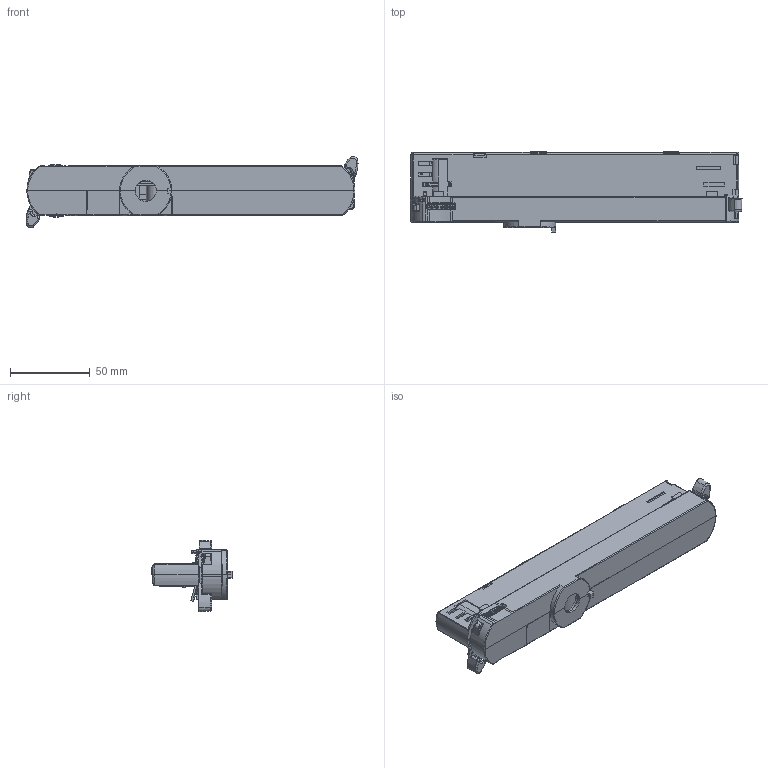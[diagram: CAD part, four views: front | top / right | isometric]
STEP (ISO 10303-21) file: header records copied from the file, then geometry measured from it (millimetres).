
FILE_DESCRIPTION (( 'STEP AP214' ), '1' );
FILE_NAME ('6 lines.STEP', '2022-12-08T03:28:01', ( '' ), ( '' ), 'SwSTEP 2.0', 'SolidWorks 2020', '' );
FILE_SCHEMA (( 'AUTOMOTIVE_DESIGN' ));
Length unit declared in the file: millimetre
Products named in the file (1): 6 lines
Bounding box: 207.52 x 50.1 x 44.52 mm (x, y, z)
Volume: 110307.2 mm3; surface area: 96183.5 mm2
Topology: 32 solids, 32 shells, 4682 faces, 12856 edges, 8249 vertices
Faces by surface type: plane 2697, bspline 1071, cylinder 778, cone 93, torus 35, sphere 8
Entity records: 193596 total; most frequent: CARTESIAN_POINT 79532, ORIENTED_EDGE 25690, DIRECTION 17930, EDGE_CURVE 12845, VERTEX_POINT 8249, VECTOR 7774, LINE 7774, AXIS2_PLACEMENT_3D 5078
